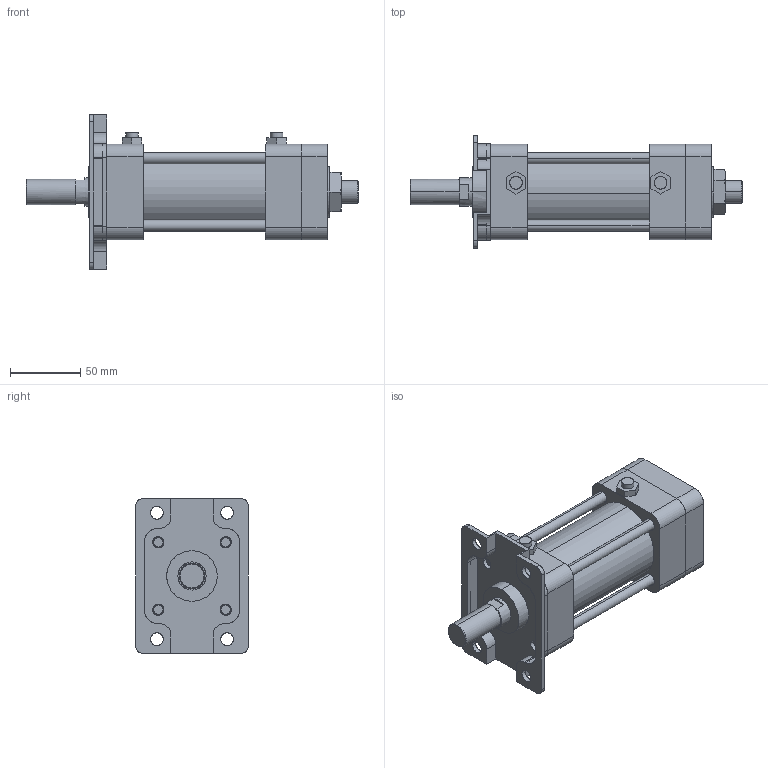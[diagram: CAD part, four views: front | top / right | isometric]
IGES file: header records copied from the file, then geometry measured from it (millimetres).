
Start section: SolidWorks IGES file using analytic representation for surfaces
Global section: file name: C:\Users\Toshiba\Desktop\KGA2-50#-50-A.IGS; native system: SolidWorks 2014; preprocessor: SolidWorks 2014; author: Toshiba; date: 160414.151539; units: millimetre
Bounding box: 236.5 x 80 x 110 mm (x, y, z)
Surface area: 137872.9 mm2 (no closed solid volume)
Topology: 0 solids, 0 shells, 432 faces, 7042 edges, 7038 vertices
Faces by surface type: bspline 224, revolution 208
